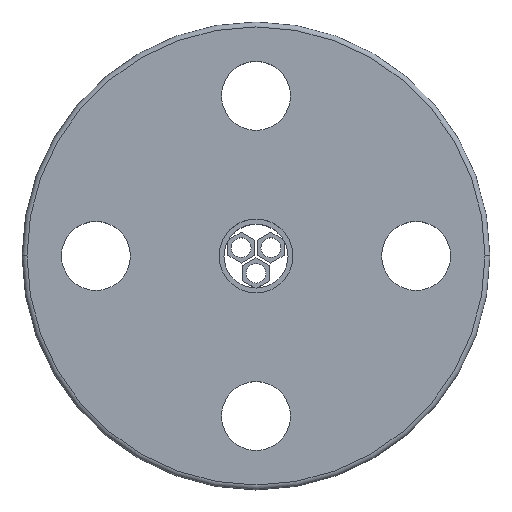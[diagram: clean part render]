
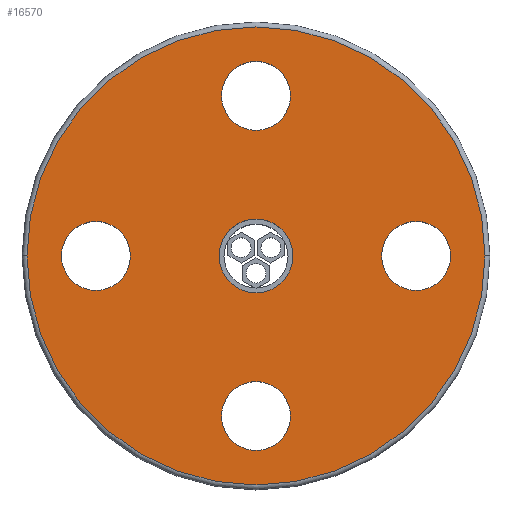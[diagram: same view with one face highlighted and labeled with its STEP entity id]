
A CAD part, top view. The second image highlights one B-rep face of the part: STEP entity #16570.
In plain terms, the highlighted planar face has unit normal (0, 0, 1) as drawn and (0, -1, 0) by its records, which use the part's own axes.
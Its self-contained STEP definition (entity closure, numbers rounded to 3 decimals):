
#15490=CARTESIAN_POINT('',(-63.693,7.409,7.));
#15500=VERTEX_POINT('',#15490);
#15580=CARTESIAN_POINT('',(-63.693,7.409,-7.));
#15590=VERTEX_POINT('',#15580);
#15620=CARTESIAN_POINT('',(-63.693,7.409,0.));
#15630=DIRECTION('',(0.,-1.,0.));
#15640=DIRECTION('',(0.,0.,-1.));
#15650=AXIS2_PLACEMENT_3D('',#15620,#15630,#15640);
#15660=CIRCLE('',#15650,7.);
#15670=EDGE_CURVE('',#15500,#15590,#15660,.T.);
#15720=CARTESIAN_POINT('',(-144.51,7.409,-51.683
));
#15730=DIRECTION('',(0.,-1.,0.));
#15740=DIRECTION('',(1.,0.,0.));
#15750=AXIS2_PLACEMENT_3D('',#15720,#15730,#15740);
#15760=PLANE('',#15750);
#15770=EDGE_CURVE('',#15590,#15500,#15660,.T.);
#15780=ORIENTED_EDGE('',*,*,#15770,.F.);
#15790=ORIENTED_EDGE('',*,*,#15670,.F.);
#15800=EDGE_LOOP('',(#15790,#15780));
#15810=FACE_BOUND('',#15800,.T.);
#15820=CARTESIAN_POINT('',(-96.193,7.409,0.));
#15830=DIRECTION('',(0.,-1.,0.));
#15840=DIRECTION('',(1.,0.,0.));
#15850=AXIS2_PLACEMENT_3D('',#15820,#15830,#15840);
#15860=CIRCLE('',#15850,7.5);
#15870=CARTESIAN_POINT('',(-88.693,7.409,0.));
#15880=VERTEX_POINT('',#15870);
#15890=CARTESIAN_POINT('',(-103.693,7.409,
0.));
#15900=VERTEX_POINT('',#15890);
#15910=EDGE_CURVE('',#15880,#15900,#15860,.T.);
#15920=ORIENTED_EDGE('',*,*,#15910,.F.);
#15930=EDGE_CURVE('',#15900,#15880,#15860,.T.);
#15940=ORIENTED_EDGE('',*,*,#15930,.F.);
#15950=EDGE_LOOP('',(#15940,#15920));
#15960=FACE_BOUND('',#15950,.T.);
#15970=CARTESIAN_POINT('',(-128.693,7.409,0.));
#15980=DIRECTION('',(0.,-1.,0.));
#15990=DIRECTION('',(0.,0.,1.));
#16000=AXIS2_PLACEMENT_3D('',#15970,#15980,#15990);
#16010=CIRCLE('',#16000,7.);
#16020=CARTESIAN_POINT('',(-128.693,7.409,7.));
#16030=VERTEX_POINT('',#16020);
#16040=CARTESIAN_POINT('',(-128.693,7.409,-7.));
#16050=VERTEX_POINT('',#16040);
#16060=EDGE_CURVE('',#16030,#16050,#16010,.T.);
#16070=ORIENTED_EDGE('',*,*,#16060,.F.);
#16080=EDGE_CURVE('',#16050,#16030,#16010,.T.);
#16090=ORIENTED_EDGE('',*,*,#16080,.F.);
#16100=EDGE_LOOP('',(#16090,#16070));
#16110=FACE_BOUND('',#16100,.T.);
#16120=CARTESIAN_POINT('',(-96.193,7.409,-32.5));
#16130=DIRECTION('',(0.,-1.,0.));
#16140=DIRECTION('',(-1.,0.,0.));
#16150=AXIS2_PLACEMENT_3D('',#16120,#16130,#16140);
#16160=CIRCLE('',#16150,7.);
#16170=CARTESIAN_POINT('',(-103.193,7.409,-32.5));
#16180=VERTEX_POINT('',#16170);
#16190=CARTESIAN_POINT('',(-89.193,7.409,-32.5));
#16200=VERTEX_POINT('',#16190);
#16210=EDGE_CURVE('',#16180,#16200,#16160,.T.);
#16220=ORIENTED_EDGE('',*,*,#16210,.F.);
#16230=EDGE_CURVE('',#16200,#16180,#16160,.T.);
#16240=ORIENTED_EDGE('',*,*,#16230,.F.);
#16250=EDGE_LOOP('',(#16240,#16220));
#16260=FACE_BOUND('',#16250,.T.);
#16270=CARTESIAN_POINT('',(-96.193,7.409,32.5));
#16280=DIRECTION('',(0.,-1.,0.));
#16290=DIRECTION('',(1.,0.,0.));
#16300=AXIS2_PLACEMENT_3D('',#16270,#16280,#16290);
#16310=CIRCLE('',#16300,7.);
#16320=CARTESIAN_POINT('',(-89.193,7.409,32.5));
#16330=VERTEX_POINT('',#16320);
#16340=CARTESIAN_POINT('',(-103.193,7.409,32.5));
#16350=VERTEX_POINT('',#16340);
#16360=EDGE_CURVE('',#16330,#16350,#16310,.T.);
#16370=ORIENTED_EDGE('',*,*,#16360,.F.);
#16380=EDGE_CURVE('',#16350,#16330,#16310,.T.);
#16390=ORIENTED_EDGE('',*,*,#16380,.F.);
#16400=EDGE_LOOP('',(#16390,#16370));
#16410=FACE_BOUND('',#16400,.T.);
#16420=CARTESIAN_POINT('',(-96.193,7.409,0.));
#16430=DIRECTION('',(0.,-1.,0.));
#16440=DIRECTION('',(1.,0.,0.));
#16450=AXIS2_PLACEMENT_3D('',#16420,#16430,#16440);
#16460=CIRCLE('',#16450,46.5);
#16470=CARTESIAN_POINT('',(-49.693,7.409,0.));
#16480=VERTEX_POINT('',#16470);
#16490=CARTESIAN_POINT('',(-142.693,7.409,0.));
#16500=VERTEX_POINT('',#16490);
#16510=EDGE_CURVE('',#16480,#16500,#16460,.T.);
#16520=ORIENTED_EDGE('',*,*,#16510,.T.);
#16530=EDGE_CURVE('',#16500,#16480,#16460,.T.);
#16540=ORIENTED_EDGE('',*,*,#16530,.T.);
#16550=EDGE_LOOP('',(#16540,#16520));
#16560=FACE_OUTER_BOUND('',#16550,.T.);
#16570=ADVANCED_FACE('',(#15810,#15960,#16110,#16260,#16410,#16560),
#15760,.T.);
